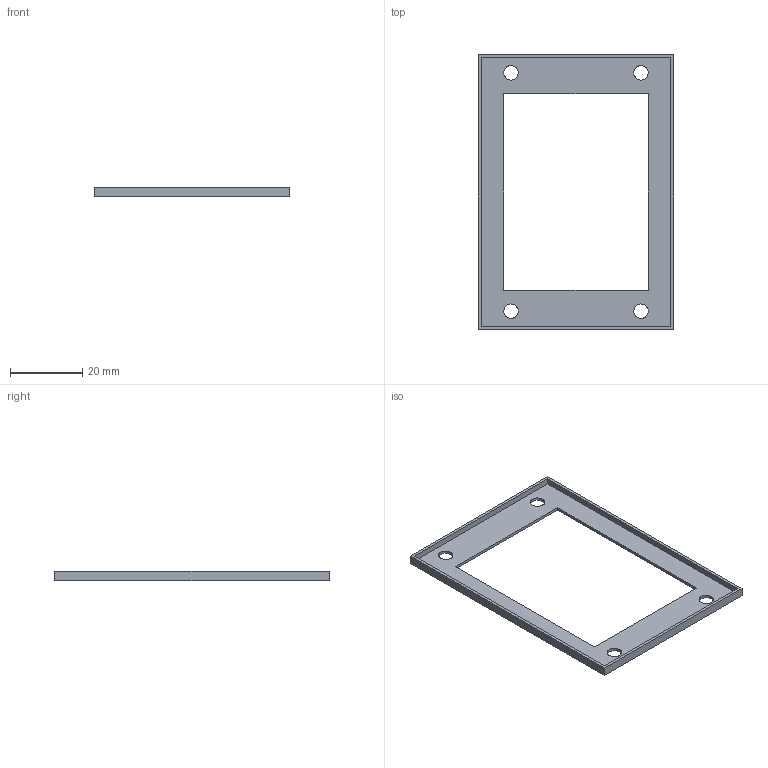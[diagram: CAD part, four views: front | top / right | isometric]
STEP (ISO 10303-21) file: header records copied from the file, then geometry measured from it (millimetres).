
FILE_DESCRIPTION(('CATIA V5 STEP Exchange'),'2;1');
FILE_NAME('X:\XDrive\---CAD---\--- 3D Drucker ---\K40\Abdeck_Rahmen_W3001.stp','2023-03-20T15:07:34+00:00',('none'),('none'),'CATIA Version 5 Release 19 SP 2 (IN-10)','CATIA V5 STEP AP203','none');
FILE_SCHEMA(('CONFIG_CONTROL_DESIGN'));
Length unit declared in the file: millimetre
Products named in the file (1): Abdeck_Rahmen_W3001
Bounding box: 54 x 76 x 2.5 mm (x, y, z)
Volume: 1848.2 mm3; surface area: 5020 mm2
Topology: 1 solids, 1 shells, 23 faces, 60 edges, 40 vertices
Faces by surface type: plane 15, cylinder 8
Entity records: 784 total; most frequent: CARTESIAN_POINT 184, ORIENTED_EDGE 120, DIRECTION 90, EDGE_CURVE 60, VECTOR 44, LINE 44, VERTEX_POINT 40, EDGE_LOOP 34
